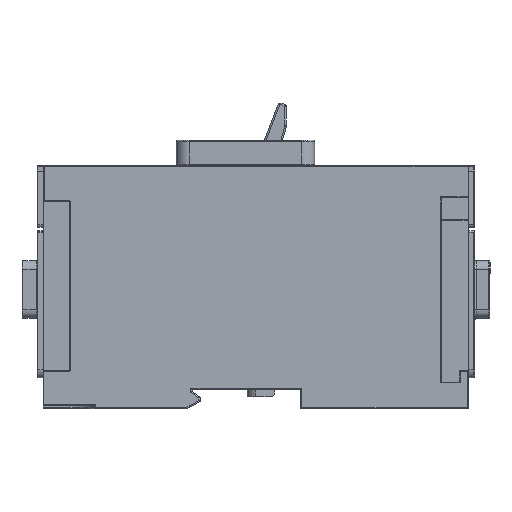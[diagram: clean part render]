
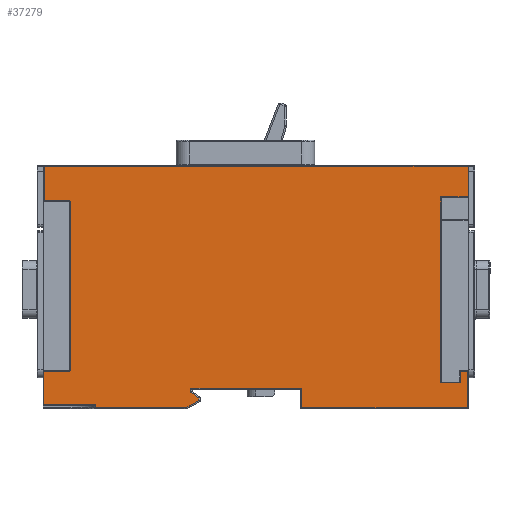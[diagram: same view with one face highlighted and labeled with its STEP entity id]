
A CAD part, left-side view. The second image highlights one B-rep face of the part: STEP entity #37279.
In plain terms, the highlighted planar face has unit normal (-1, 0, 0).
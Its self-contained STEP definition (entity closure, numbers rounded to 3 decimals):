
#1478=DIRECTION('',(0.,1.,0.));
#1479=VECTOR('',#1478,139.5);
#1480=CARTESIAN_POINT('',(0.,7.2,79.8));
#1481=LINE('',#1480,#1479);
#1491=DIRECTION('',(0.,1.,0.));
#1492=VECTOR('',#1491,9.);
#1493=CARTESIAN_POINT('',(0.,7.2,69.765));
#1494=LINE('',#1493,#1492);
#1495=DIRECTION('',(0.,0.,1.));
#1496=VECTOR('',#1495,12.);
#1497=CARTESIAN_POINT('',(0.,7.4,0.4));
#1498=LINE('',#1497,#1496);
#1499=DIRECTION('',(0.,-1.,0.));
#1500=VECTOR('',#1499,54.6);
#1501=CARTESIAN_POINT('',(0.,62.,0.4));
#1502=LINE('',#1501,#1500);
#1503=DIRECTION('',(0.,0.,1.));
#1504=VECTOR('',#1503,6.35);
#1505=CARTESIAN_POINT('',(0.,62.,0.4));
#1506=LINE('',#1505,#1504);
#1507=DIRECTION('',(0.,-1.,0.));
#1508=VECTOR('',#1507,17.9);
#1509=CARTESIAN_POINT('',(0.,79.9,6.75));
#1510=LINE('',#1509,#1508);
#1511=DIRECTION('',(0.,-0.819,-0.574));
#1512=VECTOR('',#1511,3.174);
#1513=CARTESIAN_POINT('',(0.,98.4,5.481));
#1514=LINE('',#1513,#1512);
#1515=DIRECTION('',(0.,0.866,-0.5));
#1516=VECTOR('',#1515,3.429);
#1517=CARTESIAN_POINT('',(0.,95.8,2.72));
#1518=LINE('',#1517,#1516);
#1519=CARTESIAN_POINT('',(0.001,101.069,4.987));
#1520=DIRECTION('',(1.,0.,0.));
#1521=DIRECTION('',(0.,-0.5,-0.866));
#1522=AXIS2_PLACEMENT_3D('',#1519,#1520,#1521);
#1524=CARTESIAN_POINT('',(0.,138.6,12.889));
#1525=DIRECTION('',(-1.,0.,0.));
#1526=DIRECTION('',(0.,0.,-1.));
#1527=AXIS2_PLACEMENT_3D('',#1524,#1525,#1526);
#1529=CARTESIAN_POINT('',(0.,138.6,67.989));
#1530=DIRECTION('',(-1.,0.,0.));
#1531=DIRECTION('',(0.,-1.,0.));
#1532=AXIS2_PLACEMENT_3D('',#1529,#1530,#1531);
#1534=DIRECTION('',(0.,0.,1.));
#1535=VECTOR('',#1534,10.035);
#1536=CARTESIAN_POINT('',(0.,7.2,69.765));
#1537=LINE('',#1536,#1535);
#8912=DIRECTION('',(0.,0.,-1.));
#8913=VECTOR('',#8912,0.139);
#8914=CARTESIAN_POINT('',(0.,79.9,6.889));
#8915=LINE('',#8914,#8913);
#11332=DIRECTION('',(0.,0.,-1.));
#11333=VECTOR('',#11332,10.889);
#11334=CARTESIAN_POINT('',(0.,147.,12.289));
#11335=LINE('',#11334,#11333);
#16881=DIRECTION('',(0.,1.,0.));
#16882=VECTOR('',#16881,8.4);
#16883=CARTESIAN_POINT('',(0.,138.6,12.289));
#16884=LINE('',#16883,#16882);
#16893=DIRECTION('',(0.,0.,-1.));
#16894=VECTOR('',#16893,55.1);
#16895=CARTESIAN_POINT('',(0.,138.,67.989));
#16896=LINE('',#16895,#16894);
#16924=DIRECTION('',(0.,-1.,0.));
#16925=VECTOR('',#16924,8.1);
#16926=CARTESIAN_POINT('',(0.,146.7,68.589));
#16927=LINE('',#16926,#16925);
#17062=DIRECTION('',(0.,0.,-1.));
#17063=VECTOR('',#17062,11.211);
#17064=CARTESIAN_POINT('',(0.,146.7,79.8));
#17065=LINE('',#17064,#17063);
#17090=DIRECTION('',(0.,-1.,0.));
#17091=VECTOR('',#17090,17.274);
#17092=CARTESIAN_POINT('',(0.,147.,1.4));
#17093=LINE('',#17092,#17091);
#17098=DIRECTION('',(0.,0.,-1.));
#17099=VECTOR('',#17098,1.);
#17100=CARTESIAN_POINT('',(0.,129.726,1.4));
#17101=LINE('',#17100,#17099);
#17129=DIRECTION('',(0.,-1.,0.));
#17130=VECTOR('',#17129,28.977);
#17131=CARTESIAN_POINT('',(0.,129.726,
0.4));
#17132=LINE('',#17131,#17130);
#17196=DIRECTION('',(0.,0.,1.));
#17197=VECTOR('',#17196,0.94);
#17198=CARTESIAN_POINT('',(0.,95.8,2.72));
#17199=LINE('',#17198,#17197);
#17333=DIRECTION('',(0.,0.,1.));
#17334=VECTOR('',#17333,1.408);
#17335=CARTESIAN_POINT('',(0.,98.4,5.481));
#17336=LINE('',#17335,#17334);
#17353=DIRECTION('',(0.,-1.,0.));
#17354=VECTOR('',#17353,18.5);
#17355=CARTESIAN_POINT('',(0.,98.4,6.889));
#17356=LINE('',#17355,#17354);
#21930=DIRECTION('',(0.,1.,0.));
#21931=VECTOR('',#21930,2.4);
#21932=CARTESIAN_POINT('',(0.,7.4,12.4));
#21933=LINE('',#21932,#21931);
#21950=DIRECTION('',(0.,0.,-1.));
#21951=VECTOR('',#21950,3.8);
#21952=CARTESIAN_POINT('',(0.,9.8,12.4));
#21953=LINE('',#21952,#21951);
#21978=DIRECTION('',(0.,1.,0.));
#21979=VECTOR('',#21978,6.4);
#21980=CARTESIAN_POINT('',(0.,9.8,8.6));
#21981=LINE('',#21980,#21979);
#21990=DIRECTION('',(0.,0.,1.));
#21991=VECTOR('',#21990,61.165);
#21992=CARTESIAN_POINT('',(0.,16.2,8.6));
#21993=LINE('',#21992,#21991);
#28274=CARTESIAN_POINT('',(0.,146.7,79.8));
#28275=VERTEX_POINT('',#28274);
#28329=CARTESIAN_POINT('',(0.,147.,12.289));
#28330=VERTEX_POINT('',#28329);
#28331=CARTESIAN_POINT('',(0.,147.,1.4));
#28332=VERTEX_POINT('',#28331);
#29305=CARTESIAN_POINT('',(0.,98.77,
1.005));
#29306=CARTESIAN_POINT('',(0.,100.749,
0.4));
#29307=VERTEX_POINT('',#29305);
#29308=VERTEX_POINT('',#29306);
#29310=CARTESIAN_POINT('',(0.,146.7,68.589));
#29311=VERTEX_POINT('',#29310);
#29312=CARTESIAN_POINT('',(0.,9.8,8.6));
#29313=CARTESIAN_POINT('',(0.,16.2,8.6));
#29314=VERTEX_POINT('',#29312);
#29315=VERTEX_POINT('',#29313);
#29316=CARTESIAN_POINT('',(0.,9.8,12.4));
#29317=VERTEX_POINT('',#29316);
#29318=CARTESIAN_POINT('',(0.,98.4,6.889));
#29319=CARTESIAN_POINT('',(0.,79.9,6.889));
#29320=VERTEX_POINT('',#29318);
#29321=VERTEX_POINT('',#29319);
#29322=CARTESIAN_POINT('',(0.,98.4,5.481));
#29323=VERTEX_POINT('',#29322);
#29324=CARTESIAN_POINT('',(0.,95.8,3.66));
#29325=VERTEX_POINT('',#29324);
#29326=CARTESIAN_POINT('',(0.,95.8,2.72));
#29327=VERTEX_POINT('',#29326);
#29328=CARTESIAN_POINT('',(0.,129.726,
0.4));
#29329=VERTEX_POINT('',#29328);
#29330=CARTESIAN_POINT('',(0.,129.726,1.4));
#29331=VERTEX_POINT('',#29330);
#29332=CARTESIAN_POINT('',(0.,138.6,12.289));
#29333=VERTEX_POINT('',#29332);
#29334=CARTESIAN_POINT('',(0.,138.,12.889));
#29335=VERTEX_POINT('',#29334);
#29336=CARTESIAN_POINT('',(0.,138.,67.989));
#29337=VERTEX_POINT('',#29336);
#29338=CARTESIAN_POINT('',(0.,138.6,68.589));
#29339=VERTEX_POINT('',#29338);
#34823=CARTESIAN_POINT('',(0.,79.9,6.75));
#34825=VERTEX_POINT('',#34823);
#34826=CARTESIAN_POINT('',(0.,62.,6.75));
#34827=VERTEX_POINT('',#34826);
#34830=CARTESIAN_POINT('',(0.,62.,0.4));
#34831=VERTEX_POINT('',#34830);
#34836=CARTESIAN_POINT('',(0.,7.4,0.4));
#34837=VERTEX_POINT('',#34836);
#34840=CARTESIAN_POINT('',(0.,7.4,12.4));
#34841=VERTEX_POINT('',#34840);
#35017=CARTESIAN_POINT('',(0.,7.2,69.765));
#35018=CARTESIAN_POINT('',(0.,16.2,69.765));
#35019=VERTEX_POINT('',#35017);
#35020=VERTEX_POINT('',#35018);
#35037=CARTESIAN_POINT('',(0.,7.2,79.8));
#35038=VERTEX_POINT('',#35037);
#37218=CARTESIAN_POINT('',(0.,77.,39.9));
#37219=DIRECTION('',(1.,0.,0.));
#37220=DIRECTION('',(0.,-1.,0.));
#37221=AXIS2_PLACEMENT_3D('',#37218,#37219,#37220);
#37222=PLANE('',#37221);
#37224=ORIENTED_EDGE('',*,*,#37223,.T.);
#37226=ORIENTED_EDGE('',*,*,#37225,.F.);
#37228=ORIENTED_EDGE('',*,*,#37227,.F.);
#37230=ORIENTED_EDGE('',*,*,#37229,.F.);
#37232=ORIENTED_EDGE('',*,*,#37231,.F.);
#37234=ORIENTED_EDGE('',*,*,#37233,.F.);
#37236=ORIENTED_EDGE('',*,*,#37235,.F.);
#37238=ORIENTED_EDGE('',*,*,#37237,.T.);
#37240=ORIENTED_EDGE('',*,*,#37239,.F.);
#37242=ORIENTED_EDGE('',*,*,#37241,.F.);
#37244=ORIENTED_EDGE('',*,*,#37243,.F.);
#37246=ORIENTED_EDGE('',*,*,#37245,.F.);
#37248=ORIENTED_EDGE('',*,*,#37247,.T.);
#37250=ORIENTED_EDGE('',*,*,#37249,.F.);
#37252=ORIENTED_EDGE('',*,*,#37251,.T.);
#37254=ORIENTED_EDGE('',*,*,#37253,.T.);
#37256=ORIENTED_EDGE('',*,*,#37255,.F.);
#37258=ORIENTED_EDGE('',*,*,#37257,.F.);
#37260=ORIENTED_EDGE('',*,*,#37259,.F.);
#37262=ORIENTED_EDGE('',*,*,#37261,.F.);
#37264=ORIENTED_EDGE('',*,*,#37263,.F.);
#37266=ORIENTED_EDGE('',*,*,#37265,.T.);
#37268=ORIENTED_EDGE('',*,*,#37267,.F.);
#37270=ORIENTED_EDGE('',*,*,#37269,.T.);
#37272=ORIENTED_EDGE('',*,*,#37271,.F.);
#37274=ORIENTED_EDGE('',*,*,#37273,.F.);
#37275=ORIENTED_EDGE('',*,*,#37184,.F.);
#37276=ORIENTED_EDGE('',*,*,#37208,.F.);
#37277=EDGE_LOOP('',(#37224,#37226,#37228,#37230,#37232,#37234,#37236,#37238,
#37240,#37242,#37244,#37246,#37248,#37250,#37252,#37254,#37256,#37258,#37260,
#37262,#37264,#37266,#37268,#37270,#37272,#37274,#37275,#37276));
#37278=FACE_OUTER_BOUND('',#37277,.F.);
#37279=ADVANCED_FACE('',(#37278),#37222,.F.);
#1523=CIRCLE('',#1522,4.598);
#1528=CIRCLE('',#1527,0.6);
#1533=CIRCLE('',#1532,0.6);
#37184=EDGE_CURVE('',#35038,#28275,#1481,.T.);
#37208=EDGE_CURVE('',#35019,#35038,#1537,.T.);
#37223=EDGE_CURVE('',#35019,#35020,#1494,.T.);
#37225=EDGE_CURVE('',#29315,#35020,#21993,.T.);
#37227=EDGE_CURVE('',#29314,#29315,#21981,.T.);
#37229=EDGE_CURVE('',#29317,#29314,#21953,.T.);
#37231=EDGE_CURVE('',#34841,#29317,#21933,.T.);
#37233=EDGE_CURVE('',#34837,#34841,#1498,.T.);
#37235=EDGE_CURVE('',#34831,#34837,#1502,.T.);
#37237=EDGE_CURVE('',#34831,#34827,#1506,.T.);
#37239=EDGE_CURVE('',#34825,#34827,#1510,.T.);
#37241=EDGE_CURVE('',#29321,#34825,#8915,.T.);
#37243=EDGE_CURVE('',#29320,#29321,#17356,.T.);
#37245=EDGE_CURVE('',#29323,#29320,#17336,.T.);
#37247=EDGE_CURVE('',#29323,#29325,#1514,.T.);
#37249=EDGE_CURVE('',#29327,#29325,#17199,.T.);
#37251=EDGE_CURVE('',#29327,#29307,#1518,.T.);
#37253=EDGE_CURVE('',#29307,#29308,#1523,.T.);
#37255=EDGE_CURVE('',#29329,#29308,#17132,.T.);
#37257=EDGE_CURVE('',#29331,#29329,#17101,.T.);
#37259=EDGE_CURVE('',#28332,#29331,#17093,.T.);
#37261=EDGE_CURVE('',#28330,#28332,#11335,.T.);
#37263=EDGE_CURVE('',#29333,#28330,#16884,.T.);
#37265=EDGE_CURVE('',#29333,#29335,#1528,.T.);
#37267=EDGE_CURVE('',#29337,#29335,#16896,.T.);
#37269=EDGE_CURVE('',#29337,#29339,#1533,.T.);
#37271=EDGE_CURVE('',#29311,#29339,#16927,.T.);
#37273=EDGE_CURVE('',#28275,#29311,#17065,.T.);
